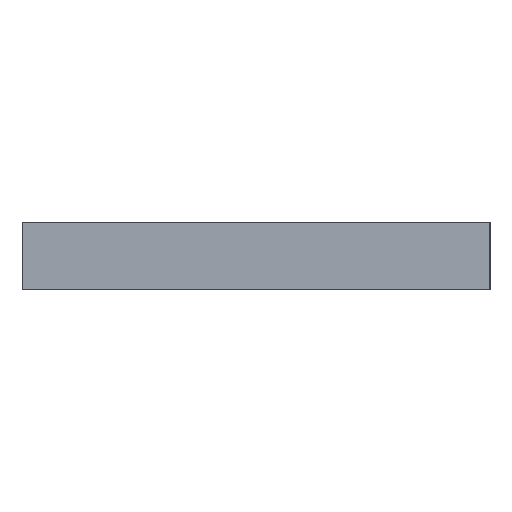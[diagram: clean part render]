
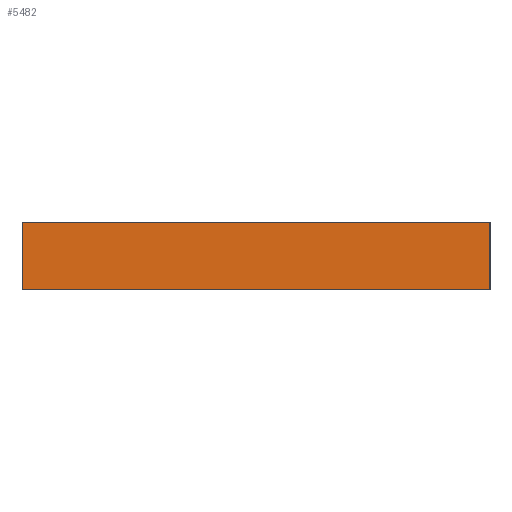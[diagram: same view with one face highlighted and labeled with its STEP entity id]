
A CAD part, left-side view. The second image highlights one B-rep face of the part: STEP entity #5482.
In plain terms, the highlighted planar face has unit normal (-1, 0, 0).
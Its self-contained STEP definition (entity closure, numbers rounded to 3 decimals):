
#337 = ORIENTED_EDGE ( 'NONE', *, *, #2189, .T. ) ;
#1501 = DIRECTION ( 'NONE',  ( 0., 0., -1. ) ) ;
#1510 = DIRECTION ( 'NONE',  ( 0., -1., 0. ) ) ;
#1606 = VERTEX_POINT ( 'NONE', #6356 ) ;
#1766 = FACE_OUTER_BOUND ( 'NONE', #10083, .T. ) ;
#1887 = CARTESIAN_POINT ( 'NONE',  ( -596.2, 476.212, -1407.968 ) ) ;
#2189 = EDGE_CURVE ( 'NONE', #1606, #9342, #5934, .T. ) ;
#2696 = CARTESIAN_POINT ( 'NONE',  ( -596.2, 542.4, -1407.968 ) ) ;
#2707 = ORIENTED_EDGE ( 'NONE', *, *, #4054, .F. ) ;
#3502 = AXIS2_PLACEMENT_3D ( 'NONE', #1887, #5177, #5899 ) ;
#3904 = LINE ( 'NONE', #10611, #8008 ) ;
#4054 = EDGE_CURVE ( 'NONE', #9330, #10831, #8262, .T. ) ;
#4290 = DIRECTION ( 'NONE',  ( 0., 0., -1. ) ) ;
#4331 = VECTOR ( 'NONE', #1501, 1000. ) ;
#4813 = CARTESIAN_POINT ( 'NONE',  ( -596.2, 0., -1407.968 ) ) ;
#5177 = DIRECTION ( 'NONE',  ( -1., 0., 0. ) ) ;
#5482 = ADVANCED_FACE ( 'NONE', ( #1766 ), #9491, .T. ) ;
#5899 = DIRECTION ( 'NONE',  ( 0., 0., 1. ) ) ;
#5934 = LINE ( 'NONE', #2696, #10616 ) ;
#6356 = CARTESIAN_POINT ( 'NONE',  ( -596.2, 542.4, 0. ) ) ;
#6357 = CARTESIAN_POINT ( 'NONE',  ( -596.2, 0., 0. ) ) ;
#6563 = CARTESIAN_POINT ( 'NONE',  ( -596.2, 0., -78. ) ) ;
#7522 = CARTESIAN_POINT ( 'NONE',  ( -596.2, 476.212, -78. ) ) ;
#8008 = VECTOR ( 'NONE', #1510, 1000. ) ;
#8262 = LINE ( 'NONE', #4813, #4331 ) ;
#8836 = EDGE_CURVE ( 'NONE', #10831, #9342, #9410, .T. ) ;
#9303 = DIRECTION ( 'NONE',  ( 0., 1., 0. ) ) ;
#9330 = VERTEX_POINT ( 'NONE', #6357 ) ;
#9342 = VERTEX_POINT ( 'NONE', #10771 ) ;
#9410 = LINE ( 'NONE', #7522, #9550 ) ;
#9428 = EDGE_CURVE ( 'NONE', #1606, #9330, #3904, .T. ) ;
#9491 = PLANE ( 'NONE',  #3502 ) ;
#9550 = VECTOR ( 'NONE', #9303, 1000. ) ;
#10083 = EDGE_LOOP ( 'NONE', ( #10885, #2707, #10666, #337 ) ) ;
#10611 = CARTESIAN_POINT ( 'NONE',  ( -596.2, 476.212, 0. ) ) ;
#10616 = VECTOR ( 'NONE', #4290, 1000. ) ;
#10666 = ORIENTED_EDGE ( 'NONE', *, *, #9428, .F. ) ;
#10771 = CARTESIAN_POINT ( 'NONE',  ( -596.2, 542.4, -78. ) ) ;
#10831 = VERTEX_POINT ( 'NONE', #6563 ) ;
#10885 = ORIENTED_EDGE ( 'NONE', *, *, #8836, .F. ) ;
